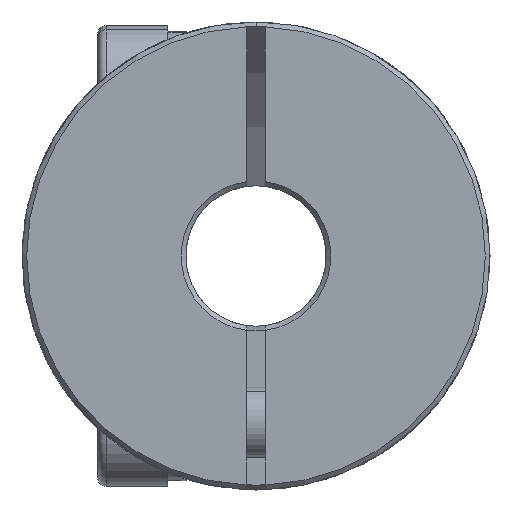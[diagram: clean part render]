
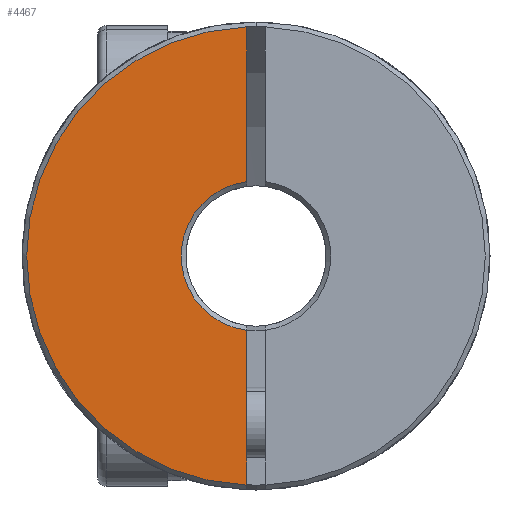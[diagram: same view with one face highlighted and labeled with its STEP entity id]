
A CAD part, front view. The second image highlights one B-rep face of the part: STEP entity #4467.
In plain terms, the highlighted planar face has unit normal (0, -1, 0).
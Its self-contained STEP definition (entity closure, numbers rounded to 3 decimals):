
#518 = DIRECTION ( 'NONE',  ( 0., 0., -1. ) ) ;
#548 = EDGE_CURVE ( 'NONE', #7485, #5252, #1619, .T. ) ;
#635 = CARTESIAN_POINT ( 'NONE',  ( -0.4, -17.5, 0. ) ) ;
#637 = LINE ( 'NONE', #2840, #3755 ) ;
#661 = CARTESIAN_POINT ( 'NONE',  ( -0.4, -17.5, 3.175 ) ) ;
#731 = CARTESIAN_POINT ( 'NONE',  ( 0., -17.5, 0. ) ) ;
#1054 = AXIS2_PLACEMENT_3D ( 'NONE', #1961, #6551, #3899 ) ;
#1434 = VECTOR ( 'NONE', #6512, 1000. ) ;
#1600 = VERTEX_POINT ( 'NONE', #661 ) ;
#1619 = LINE ( 'NONE', #635, #1434 ) ;
#1637 = EDGE_CURVE ( 'NONE', #7485, #1600, #3845, .T. ) ;
#1693 = FACE_OUTER_BOUND ( 'NONE', #5204, .T. ) ;
#1831 = EDGE_CURVE ( 'NONE', #5304, #1600, #637, .T. ) ;
#1961 = CARTESIAN_POINT ( 'NONE',  ( 0., -17.5, 0. ) ) ;
#2015 = PLANE ( 'NONE',  #1054 ) ;
#2707 = CIRCLE ( 'NONE', #4892, 9.8 ) ;
#2840 = CARTESIAN_POINT ( 'NONE',  ( -0.4, -17.5, 0. ) ) ;
#3381 = CARTESIAN_POINT ( 'NONE',  ( 0., -17.5, 0. ) ) ;
#3623 = CARTESIAN_POINT ( 'NONE',  ( -0.4, -17.5, -3.175 ) ) ;
#3755 = VECTOR ( 'NONE', #518, 1000. ) ;
#3845 = CIRCLE ( 'NONE', #4395, 3.2 ) ;
#3899 = DIRECTION ( 'NONE',  ( 0., 0., 1. ) ) ;
#4395 = AXIS2_PLACEMENT_3D ( 'NONE', #731, #6465, #6541 ) ;
#4467 = ADVANCED_FACE ( 'NONE', ( #1693 ), #2015, .F. ) ;
#4890 = ORIENTED_EDGE ( 'NONE', *, *, #1637, .T. ) ;
#4892 = AXIS2_PLACEMENT_3D ( 'NONE', #3381, #7325, #5082 ) ;
#5082 = DIRECTION ( 'NONE',  ( 0., 0., 1. ) ) ;
#5204 = EDGE_LOOP ( 'NONE', ( #5517, #6645, #6087, #4890 ) ) ;
#5210 = EDGE_CURVE ( 'NONE', #5304, #5252, #2707, .T. ) ;
#5252 = VERTEX_POINT ( 'NONE', #5638 ) ;
#5304 = VERTEX_POINT ( 'NONE', #5732 ) ;
#5517 = ORIENTED_EDGE ( 'NONE', *, *, #1831, .F. ) ;
#5638 = CARTESIAN_POINT ( 'NONE',  ( -0.4, -17.5, -9.792 ) ) ;
#5732 = CARTESIAN_POINT ( 'NONE',  ( -0.4, -17.5, 9.792 ) ) ;
#6087 = ORIENTED_EDGE ( 'NONE', *, *, #548, .F. ) ;
#6465 = DIRECTION ( 'NONE',  ( 0., 1., 0. ) ) ;
#6512 = DIRECTION ( 'NONE',  ( 0., 0., -1. ) ) ;
#6541 = DIRECTION ( 'NONE',  ( 0., 0., 1. ) ) ;
#6551 = DIRECTION ( 'NONE',  ( 0., 1., 0. ) ) ;
#6645 = ORIENTED_EDGE ( 'NONE', *, *, #5210, .T. ) ;
#7325 = DIRECTION ( 'NONE',  ( 0., -1., 0. ) ) ;
#7485 = VERTEX_POINT ( 'NONE', #3623 ) ;
